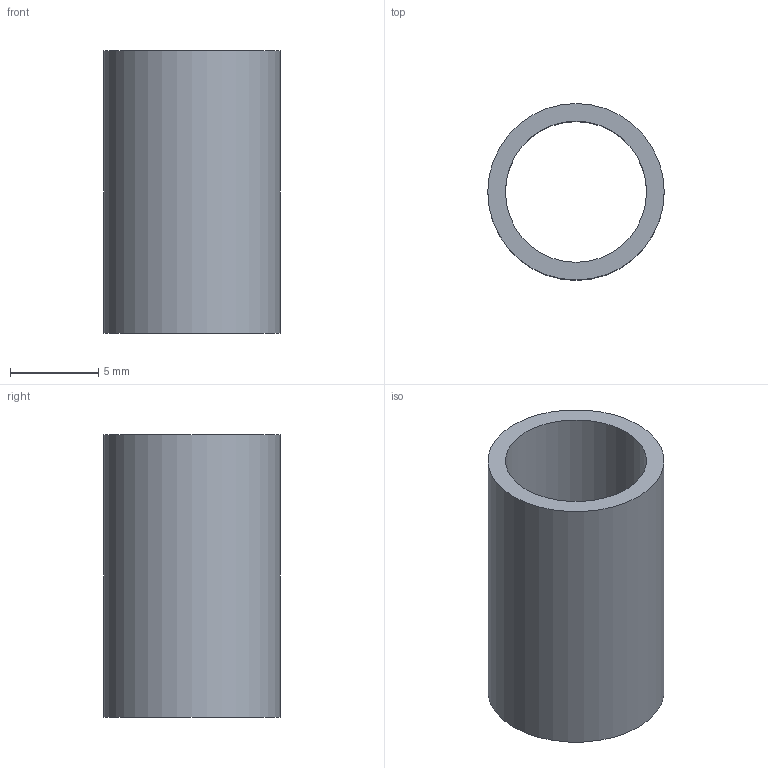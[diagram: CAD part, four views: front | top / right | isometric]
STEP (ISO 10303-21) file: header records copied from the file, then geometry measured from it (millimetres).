
FILE_DESCRIPTION(/* description */ ('CANON Ø8 Ø10 L16','CAx-IF Rec.Pracs.---Representation and Presentation of Product Manufacturing Information (PMI)---4.0---2014-10-13'),/* implementation_level */ '2;1');
FILE_NAME(/* name */ 'vv280103-C.stp',/* time_stamp */ '2025-09-30T14:12:32+02:00',/* author */ ('bscarela'),/* organization */ (''),/* preprocessor_version */ 'ST-DEVELOPER v20',/* originating_system */ 'Autodesk Inventor 2025',/* authorisation */ '');
FILE_SCHEMA (('AP242_MANAGED_MODEL_BASED_3D_ENGINEERING_MIM_LF { 1 0 10303 442 1 1 4 }'));
Length unit declared in the file: millimetre
Products named in the file (1): VICTOR.V.28.01.03
Bounding box: 10 x 10 x 16 mm (x, y, z)
Volume: 452.4 mm3; surface area: 961.3 mm2
Topology: 1 solids, 1 shells, 4 faces, 6 edges, 4 vertices
Faces by surface type: cylinder 2, plane 2
Full cylindrical faces by diameter (mm): 8 x1, 10 x1
Entity records: 204 total; most frequent: DIRECTION 32, CARTESIAN_POINT 23, AXIS2_PLACEMENT_3D 15, ORIENTED_EDGE 12, STYLED_ITEM 6, EDGE_LOOP 6, CIRCLE 6, EDGE_CURVE 6
